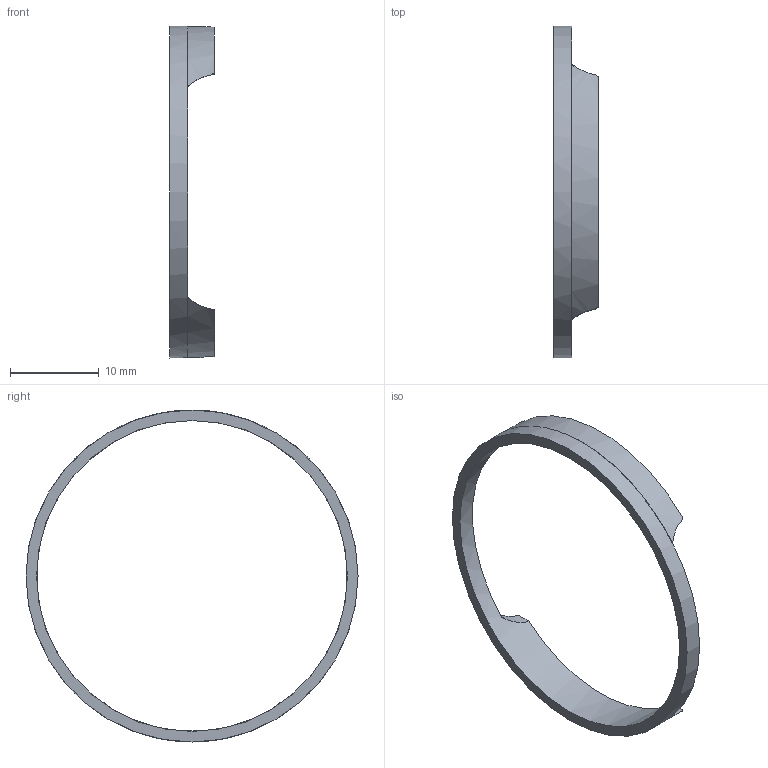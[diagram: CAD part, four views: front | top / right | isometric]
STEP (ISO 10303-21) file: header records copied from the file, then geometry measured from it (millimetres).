
FILE_DESCRIPTION(('Open CASCADE Model'),'2;1');
FILE_NAME('Open CASCADE Shape Model','2026-10-07T11:47:16',('Author'),( 'Open CASCADE'),'Open CASCADE STEP processor 7.9','Open CASCADE 7.9' ,'Unknown');
FILE_SCHEMA(('AUTOMOTIVE_DESIGN { 1 0 10303 214 1 1 1 1 }'));
Length unit declared in the file: millimetre
Products named in the file (1): Open CASCADE STEP translator 7.9 7
Bounding box: 5 x 37.5 x 37.5 mm (x, y, z)
Volume: 470 mm3; surface area: 1084.3 mm2
Topology: 1 solids, 1 shells, 27 faces, 78 edges, 52 vertices
Faces by surface type: plane 18, cylinder 8, bspline 1
Full cylindrical faces by diameter (mm): 35.1 x1, 37.5 x1
Entity records: 2242 total; most frequent: CARTESIAN_POINT 814, DIRECTION 232, ORIENTED_EDGE 156, PCURVE 156, DEFINITIONAL_REPRESENTATION 156, B_SPLINE_CURVE_WITH_KNOTS 95, EDGE_CURVE 78, SURFACE_CURVE 76
